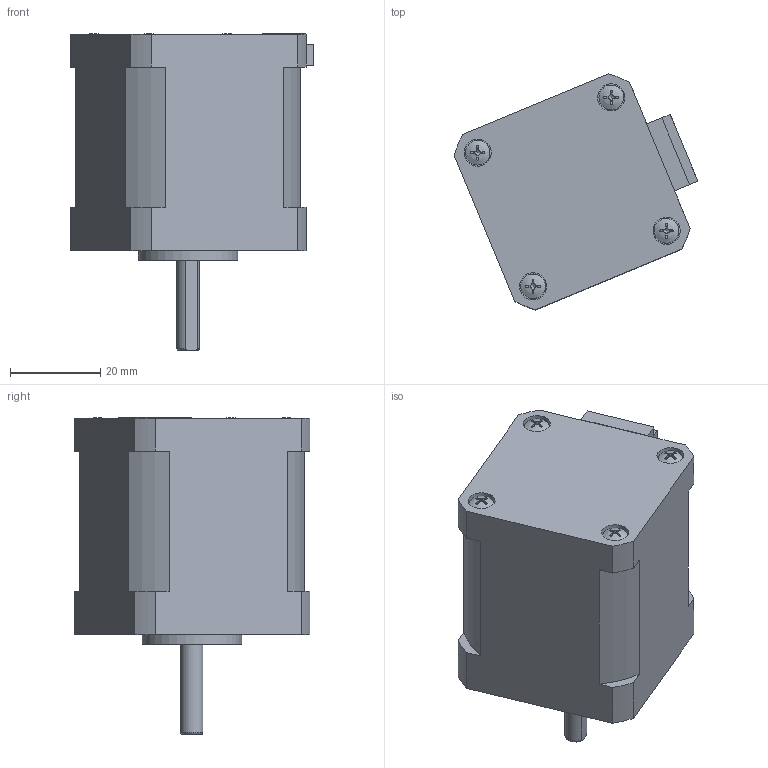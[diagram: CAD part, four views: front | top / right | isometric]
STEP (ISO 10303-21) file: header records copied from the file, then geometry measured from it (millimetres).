
FILE_DESCRIPTION(/* description */ (''),/* implementation_level */ '2;1');
FILE_NAME(/* name */ 'JK42HS48-1684-08AF.step',/* time_stamp */ '2020-03-31T10:27:18+08:00',/* author */ (''),/* organization */ (''),/* preprocessor_version */ 'ST-DEVELOPER v14',/* originating_system */ 'SIEMENS PLM Software NX 8.0',/* authorisation */ '');
FILE_SCHEMA (('AUTOMOTIVE_DESIGN { 1 0 10303 214 3 1 1 1 }'));
Products named in the file (3): M3-luoding; dianjizhuti; JK42HS48-1684-08AF
Assembly tree (5 placements, depth 2):
  JK42HS48-1684-08AF
    dianjizhuti
    M3-luoding  x4
Bounding box: 53.93 x 52.22 x 70.11 mm (x, y, z)
Volume: 82384.5 mm3; surface area: 14628.1 mm2
Topology: 14 solids, 14 shells, 261 faces, 645 edges, 422 vertices
Faces by surface type: plane 137, cylinder 55, cone 32, torus 21, bspline 12, sphere 4
Full cylindrical faces by diameter (mm): 0.2 x5, 2.458 x4, 2.459 x4, 2.675 x4, 3 x4, 3.5 x4, 5.45 x4, 6 x4, 22.03 x1
Entity records: 41743 total; most frequent: CARTESIAN_POINT 38465, ORIENTED_EDGE 632, DIRECTION 615, EDGE_CURVE 316, AXIS2_PLACEMENT_3D 244, VERTEX_POINT 224, EDGE_LOOP 187, ADVANCED_FACE 147
